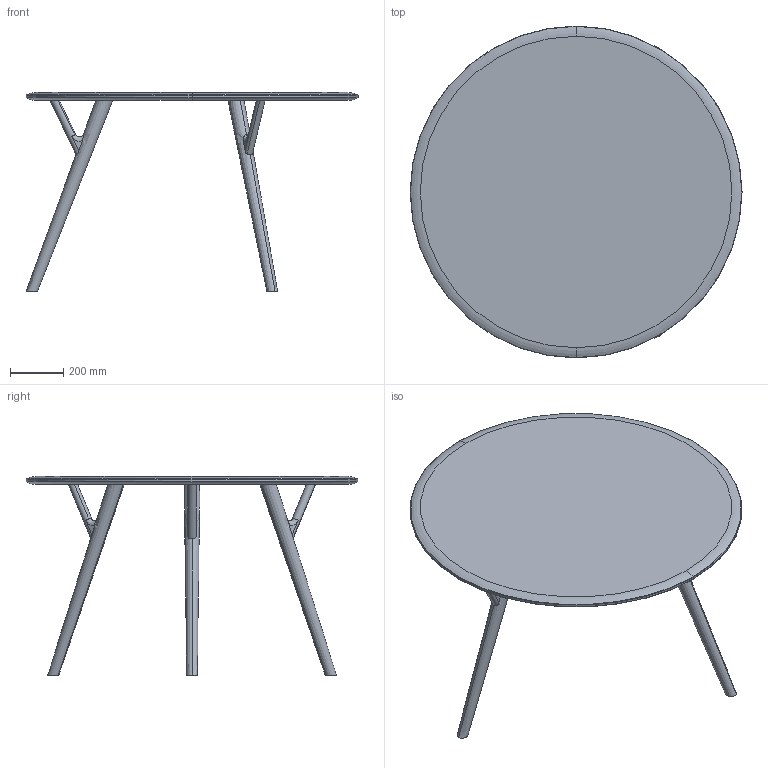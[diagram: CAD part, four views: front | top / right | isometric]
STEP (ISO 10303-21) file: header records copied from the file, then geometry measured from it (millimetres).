
FILE_DESCRIPTION (( 'STEP AP203' ), '1' );
FILE_NAME ('ORGANIC TRP STO OKRUGLI.STEP', '2020-07-09T07:09:41', ( '' ), ( '' ), 'SwSTEP 2.0', 'SolidWorks 2020', '' );
FILE_SCHEMA (( 'CONFIG_CONTROL_DESIGN' ));
Length unit declared in the file: millimetre
Products named in the file (1): ORGANIC TRP STO OKRUGLI
Bounding box: 1250.68 x 1250 x 749.99 mm (x, y, z)
Volume: 39496951.3 mm3; surface area: 3159690 mm2
Topology: 1 solids, 1 shells, 269 faces, 784 edges, 512 vertices
Faces by surface type: plane 178, cylinder 59, cone 18, torus 14
Entity records: 9332 total; most frequent: CARTESIAN_POINT 2141, ORIENTED_EDGE 1568, DIRECTION 1407, EDGE_CURVE 784, VECTOR 567, LINE 567, VERTEX_POINT 512, AXIS2_PLACEMENT_3D 420
